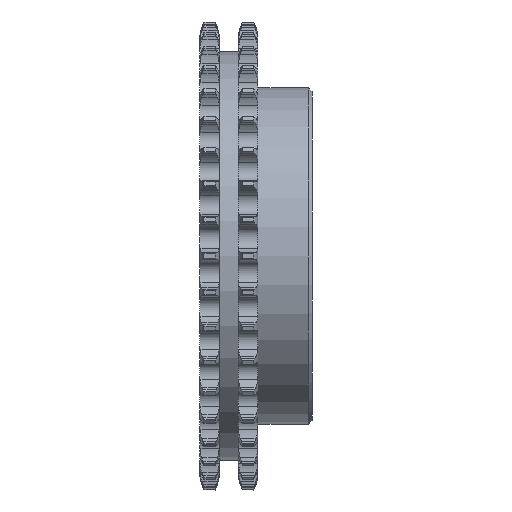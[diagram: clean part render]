
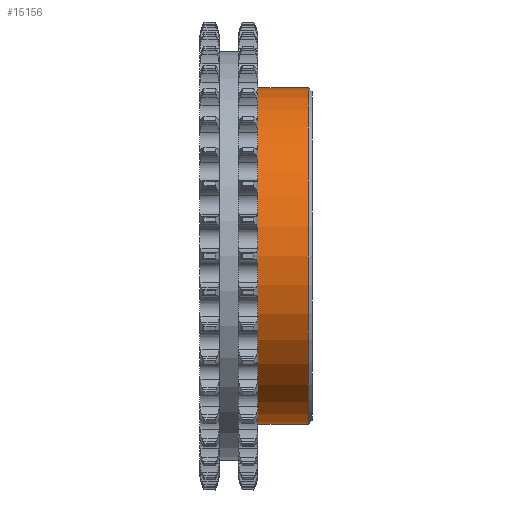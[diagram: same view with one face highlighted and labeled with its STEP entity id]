
A CAD part, front view. The second image highlights one B-rep face of the part: STEP entity #15156.
In plain terms, the highlighted cylindrical face has radius 45 mm (diameter 90 mm), a full revolution.
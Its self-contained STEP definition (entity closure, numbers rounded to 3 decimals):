
#21=FACE_BOUND('',#1970,.T.);
#1155=FACE_OUTER_BOUND('',#1969,.T.);
#1969=EDGE_LOOP('',(#13678));
#1970=EDGE_LOOP('',(#13679));
#3587=CIRCLE('',#16168,45.);
#3751=CIRCLE('',#16454,45.);
#6636=VERTEX_POINT('',#29671);
#6640=VERTEX_POINT('',#29961);
#8885=EDGE_CURVE('',#6636,#6636,#3587,.T.);
#9049=EDGE_CURVE('',#6640,#6640,#3751,.T.);
#13678=ORIENTED_EDGE('',*,*,#8885,.T.);
#13679=ORIENTED_EDGE('',*,*,#9049,.F.);
#14353=CYLINDRICAL_SURFACE('',#16453,45.);
#15156=ADVANCED_FACE('',(#1155,#21),#14353,.T.);
#16168=AXIS2_PLACEMENT_3D('',#29672,#19110,#19111);
#16453=AXIS2_PLACEMENT_3D('',#29960,#19680,#19681);
#16454=AXIS2_PLACEMENT_3D('',#29962,#19682,#19683);
#19110=DIRECTION('center_axis',(1.,0.,0.));
#19111=DIRECTION('ref_axis',(0.,0.,-1.));
#19680=DIRECTION('center_axis',(1.,0.,0.));
#19681=DIRECTION('ref_axis',(0.,1.,0.));
#19682=DIRECTION('center_axis',(1.,0.,0.));
#19683=DIRECTION('ref_axis',(0.,0.,-1.));
#29671=CARTESIAN_POINT('',(-3.691,41.939,0.));
#29672=CARTESIAN_POINT('Origin',(-3.691,-3.061,0.));
#29960=CARTESIAN_POINT('Origin',(3.059,-3.061,0.));
#29961=CARTESIAN_POINT('',(9.809,41.939,0.));
#29962=CARTESIAN_POINT('Origin',(9.809,-3.061,0.));
